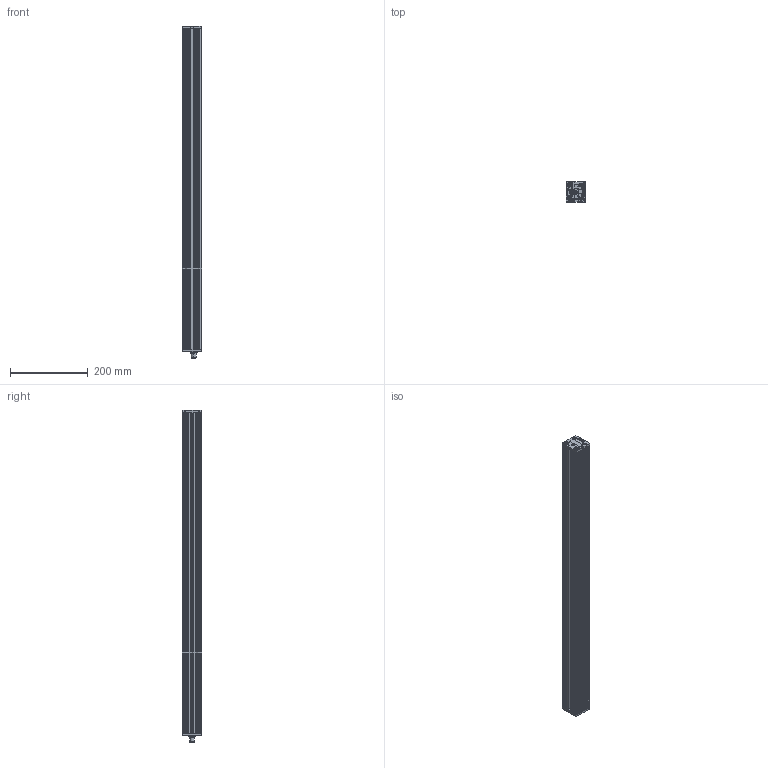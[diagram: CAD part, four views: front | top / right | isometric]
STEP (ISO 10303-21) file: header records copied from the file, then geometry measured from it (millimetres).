
FILE_DESCRIPTION (( 'STEP AP214' ), '1' );
FILE_NAME ('008824A.STEP', '2018-10-16T07:42:29', ( '' ), ( '' ), 'SwSTEP 2.0', 'SolidWorks 2018', '' );
FILE_SCHEMA (( 'AUTOMOTIVE_DESIGN' ));
Length unit declared in the file: millimetre
Products named in the file (8): 000958; 000096; 008769; 000959; 001596A823; 001161A823; 000605; 008824A
Assembly tree (15 placements, depth 2):
  008824A
    000958
    000096
    000959
    001596A823
    000605  x6
    008769  x4
    001161A823
Bounding box: 49 x 51 x 852.2 mm (x, y, z)
Volume: 878765.4 mm3; surface area: 695494 mm2
Topology: 17 solids, 17 shells, 3036 faces, 8235 edges, 5430 vertices
Faces by surface type: plane 1685, bspline 598, cylinder 549, cone 202, torus 2
Entity records: 132365 total; most frequent: CARTESIAN_POINT 61488, ORIENTED_EDGE 15488, DIRECTION 12237, EDGE_CURVE 7744, VECTOR 5203, LINE 5203, VERTEX_POINT 5141, AXIS2_PLACEMENT_3D 3517
